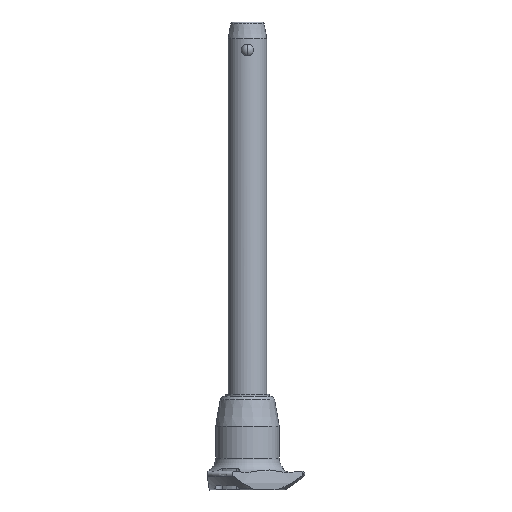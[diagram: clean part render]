
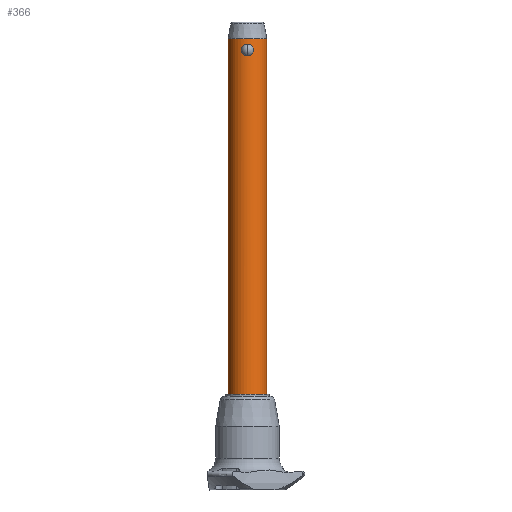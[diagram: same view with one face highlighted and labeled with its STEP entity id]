
A CAD part, front view. The second image highlights one B-rep face of the part: STEP entity #366.
In plain terms, the highlighted cylindrical face has radius 8 mm (diameter 16 mm), a partial arc.
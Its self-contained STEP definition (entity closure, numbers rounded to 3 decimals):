
#25 = B_SPLINE_CURVE_WITH_KNOTS ( 'NONE', 3,
 ( #1616, #2500, #141, #2081, #1392, #337, #110, #125, #1223, #2732, #1196, #525, #1897, #2110, #1863, #1406, #961, #1453, #790, #1880, #747, #1628, #1002, #2778, #2282, #2559, #2575, #972, #1676, #2296 ),
 .UNSPECIFIED., .F., .F.,
 ( 4, 2, 2, 2, 2, 2, 2, 2, 2, 2, 2, 2, 2, 2, 4 ),
 ( 0.008, 0.009, 0.009, 0.01, 0.01, 0.011, 0.011, 0.012, 0.012, 0.013, 0.014, 0.014, 0.015, 0.015, 0.016 ),
 .UNSPECIFIED. ) ;
#31 = ORIENTED_EDGE ( 'NONE', *, *, #1642, .F. ) ;
#97 = CARTESIAN_POINT ( 'NONE',  ( -2.276, -7.67, 3.482 ) ) ;
#110 = CARTESIAN_POINT ( 'NONE',  ( 1.657, -7.827, 0.558 ) ) ;
#114 = CARTESIAN_POINT ( 'NONE',  ( -2.547, -7.584, 2.229 ) ) ;
#118 = VERTEX_POINT ( 'NONE', #242 ) ;
#125 = CARTESIAN_POINT ( 'NONE',  ( 1.894, -7.773, 0.773 ) ) ;
#141 = CARTESIAN_POINT ( 'NONE',  ( 0.652, -7.979, 0.058 ) ) ;
#172 = DIRECTION ( 'NONE',  ( 1., 0., 0. ) ) ;
#183 = CARTESIAN_POINT ( 'NONE',  ( -8., 0., -140. ) ) ;
#199 = EDGE_CURVE ( 'NONE', #1917, #1134, #2343, .T. ) ;
#233 = EDGE_CURVE ( 'NONE', #2054, #118, #813, .T. ) ;
#242 = CARTESIAN_POINT ( 'NONE',  ( 0., -8., 0. ) ) ;
#263 = EDGE_CURVE ( 'NONE', #1917, #2711, #534, .T. ) ;
#301 = CARTESIAN_POINT ( 'NONE',  ( 0., -8., 4.775 ) ) ;
#316 = CARTESIAN_POINT ( 'NONE',  ( -1.658, -7.827, 4.216 ) ) ;
#327 = CARTESIAN_POINT ( 'NONE',  ( -2.408, -7.629, 3.189 ) ) ;
#337 = CARTESIAN_POINT ( 'NONE',  ( 1.529, -7.854, 0.463 ) ) ;
#341 = CARTESIAN_POINT ( 'NONE',  ( -2.546, -7.584, 2.553 ) ) ;
#366 = ADVANCED_FACE ( 'NONE', ( #1364, #2015 ), #2027, .T. ) ;
#372 = CARTESIAN_POINT ( 'NONE',  ( -1.107, -7.924, 4.548 ) ) ;
#391 = ORIENTED_EDGE ( 'NONE', *, *, #199, .T. ) ;
#442 = EDGE_CURVE ( 'NONE', #118, #2054, #25, .T. ) ;
#525 = CARTESIAN_POINT ( 'NONE',  ( 2.408, -7.629, 1.586 ) ) ;
#529 = CARTESIAN_POINT ( 'NONE',  ( -0.645, -7.976, 4.704 ) ) ;
#532 = ORIENTED_EDGE ( 'NONE', *, *, #637, .T. ) ;
#534 = CIRCLE ( 'NONE', #1648, 8. ) ;
#544 = CARTESIAN_POINT ( 'NONE',  ( -0.803, -7.961, 4.661 ) ) ;
#592 = DIRECTION ( 'NONE',  ( 0., 0., 1. ) ) ;
#623 = CARTESIAN_POINT ( 'NONE',  ( -0.324, -8., 0. ) ) ;
#637 = EDGE_CURVE ( 'NONE', #1134, #1252, #1605, .T. ) ;
#684 = DIRECTION ( 'NONE',  ( 1., 0., 0. ) ) ;
#747 = CARTESIAN_POINT ( 'NONE',  ( 2.016, -7.746, 3.891 ) ) ;
#766 = CARTESIAN_POINT ( 'NONE',  ( -1.252, -7.903, 4.479 ) ) ;
#780 = CARTESIAN_POINT ( 'NONE',  ( -2.211, -7.69, 1.148 ) ) ;
#790 = CARTESIAN_POINT ( 'NONE',  ( 2.41, -7.629, 3.184 ) ) ;
#813 = B_SPLINE_CURVE_WITH_KNOTS ( 'NONE', 3,
 ( #1476, #2520, #2359, #529, #544, #372, #766, #1410, #316, #2084, #1428, #2312, #97, #327, #1211, #2100, #341, #114, #2115, #1884, #2767, #780, #1665, #1900, #1227, #1327, #2598, #2844, #623, #1716 ),
 .UNSPECIFIED., .F., .F.,
 ( 4, 2, 2, 2, 2, 2, 2, 2, 2, 2, 2, 2, 2, 2, 4 ),
 ( 0., 0., 0.001, 0.001, 0.002, 0.002, 0.003, 0.003, 0.004, 0.004, 0.005, 0.006, 0.006, 0.007, 0.008 ),
 .UNSPECIFIED. ) ;
#961 = CARTESIAN_POINT ( 'NONE',  ( 2.529, -7.59, 2.71 ) ) ;
#972 = CARTESIAN_POINT ( 'NONE',  ( 0.326, -7.995, 4.761 ) ) ;
#1002 = CARTESIAN_POINT ( 'NONE',  ( 1.529, -7.854, 4.312 ) ) ;
#1116 = CARTESIAN_POINT ( 'NONE',  ( -8., 0., 7. ) ) ;
#1134 = VERTEX_POINT ( 'NONE', #1852 ) ;
#1196 = CARTESIAN_POINT ( 'NONE',  ( 2.275, -7.67, 1.291 ) ) ;
#1211 = CARTESIAN_POINT ( 'NONE',  ( -2.459, -7.613, 3.036 ) ) ;
#1223 = CARTESIAN_POINT ( 'NONE',  ( 2.004, -7.746, 0.894 ) ) ;
#1227 = CARTESIAN_POINT ( 'NONE',  ( -1.53, -7.854, 0.464 ) ) ;
#1252 = VERTEX_POINT ( 'NONE', #1116 ) ;
#1269 = DIRECTION ( 'NONE',  ( 0., 0., -1. ) ) ;
#1327 = CARTESIAN_POINT ( 'NONE',  ( -1.254, -7.902, 0.297 ) ) ;
#1335 = AXIS2_PLACEMENT_3D ( 'NONE', #2698, #1566, #684 ) ;
#1364 = FACE_OUTER_BOUND ( 'NONE', #2691, .T. ) ;
#1392 = CARTESIAN_POINT ( 'NONE',  ( 1.252, -7.903, 0.296 ) ) ;
#1406 = CARTESIAN_POINT ( 'NONE',  ( 2.547, -7.584, 2.549 ) ) ;
#1410 = CARTESIAN_POINT ( 'NONE',  ( -1.527, -7.854, 4.313 ) ) ;
#1428 = CARTESIAN_POINT ( 'NONE',  ( -2.003, -7.746, 3.882 ) ) ;
#1453 = CARTESIAN_POINT ( 'NONE',  ( 2.461, -7.612, 3.027 ) ) ;
#1466 = AXIS2_PLACEMENT_3D ( 'NONE', #1740, #1269, #172 ) ;
#1476 = CARTESIAN_POINT ( 'NONE',  ( 0., -8., 4.775 ) ) ;
#1552 = DIRECTION ( 'NONE',  ( 0., 0., -1. ) ) ;
#1566 = DIRECTION ( 'NONE',  ( 0., 0., 1. ) ) ;
#1570 = EDGE_LOOP ( 'NONE', ( #2247, #2400 ) ) ;
#1605 = CIRCLE ( 'NONE', #1466, 8. ) ;
#1611 = CARTESIAN_POINT ( 'NONE',  ( -8., 0., -140. ) ) ;
#1616 = CARTESIAN_POINT ( 'NONE',  ( 0., -8., 0. ) ) ;
#1628 = CARTESIAN_POINT ( 'NONE',  ( 1.66, -7.827, 4.215 ) ) ;
#1642 = EDGE_CURVE ( 'NONE', #2711, #1252, #1833, .T. ) ;
#1648 = AXIS2_PLACEMENT_3D ( 'NONE', #2644, #1552, #1743 ) ;
#1665 = CARTESIAN_POINT ( 'NONE',  ( -2.016, -7.746, 0.883 ) ) ;
#1676 = CARTESIAN_POINT ( 'NONE',  ( 0.164, -8., 4.775 ) ) ;
#1716 = CARTESIAN_POINT ( 'NONE',  ( 0., -8., 0. ) ) ;
#1740 = CARTESIAN_POINT ( 'NONE',  ( 0., 0., 7. ) ) ;
#1743 = DIRECTION ( 'NONE',  ( 1., 0., 0. ) ) ;
#1759 = VECTOR ( 'NONE', #1859, 1000. ) ;
#1833 = LINE ( 'NONE', #1611, #1759 ) ;
#1852 = CARTESIAN_POINT ( 'NONE',  ( 8., 0., 7. ) ) ;
#1859 = DIRECTION ( 'NONE',  ( 0., 0., 1. ) ) ;
#1863 = CARTESIAN_POINT ( 'NONE',  ( 2.546, -7.584, 2.22 ) ) ;
#1880 = CARTESIAN_POINT ( 'NONE',  ( 2.211, -7.69, 3.626 ) ) ;
#1884 = CARTESIAN_POINT ( 'NONE',  ( -2.461, -7.612, 1.746 ) ) ;
#1897 = CARTESIAN_POINT ( 'NONE',  ( 2.46, -7.613, 1.742 ) ) ;
#1900 = CARTESIAN_POINT ( 'NONE',  ( -1.659, -7.827, 0.559 ) ) ;
#1917 = VERTEX_POINT ( 'NONE', #1979 ) ;
#1979 = CARTESIAN_POINT ( 'NONE',  ( 8., 0., -140. ) ) ;
#2015 = FACE_BOUND ( 'NONE', #1570, .T. ) ;
#2027 = CYLINDRICAL_SURFACE ( 'NONE', #1335, 8. ) ;
#2054 = VERTEX_POINT ( 'NONE', #301 ) ;
#2081 = CARTESIAN_POINT ( 'NONE',  ( 1.105, -7.925, 0.226 ) ) ;
#2084 = CARTESIAN_POINT ( 'NONE',  ( -1.896, -7.773, 4.001 ) ) ;
#2100 = CARTESIAN_POINT ( 'NONE',  ( -2.529, -7.59, 2.716 ) ) ;
#2110 = CARTESIAN_POINT ( 'NONE',  ( 2.528, -7.59, 2.058 ) ) ;
#2115 = CARTESIAN_POINT ( 'NONE',  ( -2.529, -7.59, 2.064 ) ) ;
#2128 = CARTESIAN_POINT ( 'NONE',  ( 8., 0., -140. ) ) ;
#2247 = ORIENTED_EDGE ( 'NONE', *, *, #233, .F. ) ;
#2282 = CARTESIAN_POINT ( 'NONE',  ( 1.108, -7.924, 4.548 ) ) ;
#2296 = CARTESIAN_POINT ( 'NONE',  ( 0., -8., 4.775 ) ) ;
#2312 = CARTESIAN_POINT ( 'NONE',  ( -2.193, -7.694, 3.623 ) ) ;
#2336 = ORIENTED_EDGE ( 'NONE', *, *, #263, .F. ) ;
#2343 = LINE ( 'NONE', #2128, #2444 ) ;
#2359 = CARTESIAN_POINT ( 'NONE',  ( -0.326, -7.995, 4.761 ) ) ;
#2400 = ORIENTED_EDGE ( 'NONE', *, *, #442, .F. ) ;
#2444 = VECTOR ( 'NONE', #592, 1000. ) ;
#2500 = CARTESIAN_POINT ( 'NONE',  ( 0.324, -8., 0. ) ) ;
#2520 = CARTESIAN_POINT ( 'NONE',  ( -0.164, -8., 4.775 ) ) ;
#2559 = CARTESIAN_POINT ( 'NONE',  ( 0.804, -7.961, 4.661 ) ) ;
#2575 = CARTESIAN_POINT ( 'NONE',  ( 0.645, -7.976, 4.704 ) ) ;
#2598 = CARTESIAN_POINT ( 'NONE',  ( -1.106, -7.925, 0.226 ) ) ;
#2644 = CARTESIAN_POINT ( 'NONE',  ( 0., 0., -140. ) ) ;
#2691 = EDGE_LOOP ( 'NONE', ( #31, #2336, #391, #532 ) ) ;
#2698 = CARTESIAN_POINT ( 'NONE',  ( 0., 0., -140. ) ) ;
#2711 = VERTEX_POINT ( 'NONE', #183 ) ;
#2732 = CARTESIAN_POINT ( 'NONE',  ( 2.194, -7.694, 1.153 ) ) ;
#2767 = CARTESIAN_POINT ( 'NONE',  ( -2.411, -7.628, 1.592 ) ) ;
#2778 = CARTESIAN_POINT ( 'NONE',  ( 1.253, -7.903, 4.478 ) ) ;
#2844 = CARTESIAN_POINT ( 'NONE',  ( -0.652, -7.979, 0.058 ) ) ;
